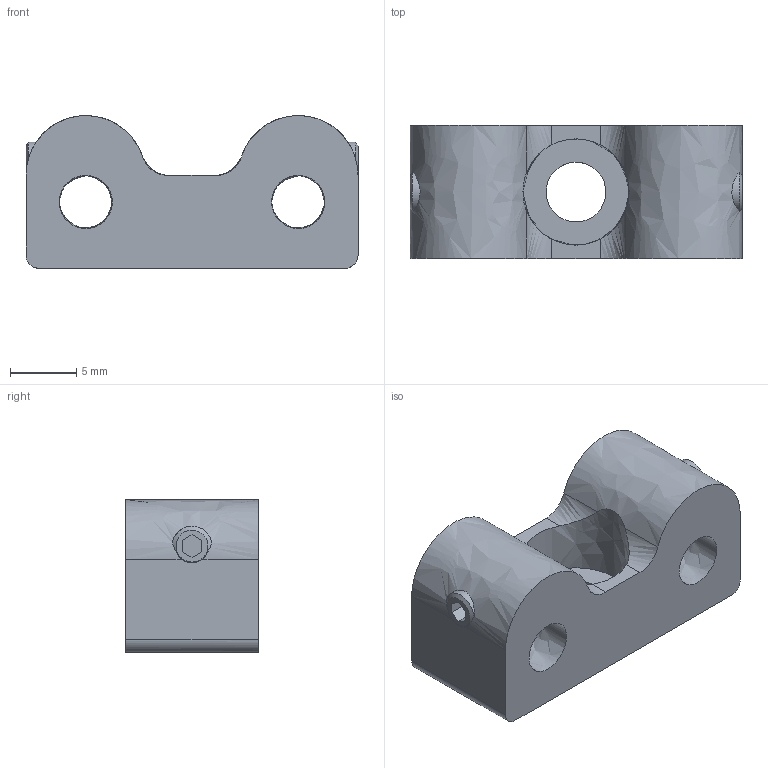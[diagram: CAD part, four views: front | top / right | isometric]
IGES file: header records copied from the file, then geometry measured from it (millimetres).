
Global section: file name: C16-RMBF-5; native system: Autodesk Inventor 2018; preprocessor: unknown; author: ka.nakajima; date: 20181002.134047; units: millimetre
Bounding box: 25 x 10 x 11.5 mm (x, y, z)
Volume: 1840.7 mm3; surface area: 1614.2 mm2
Topology: 1 solids, 1 shells, 50 faces, 137 edges, 93 vertices
Faces by surface type: bspline 50
